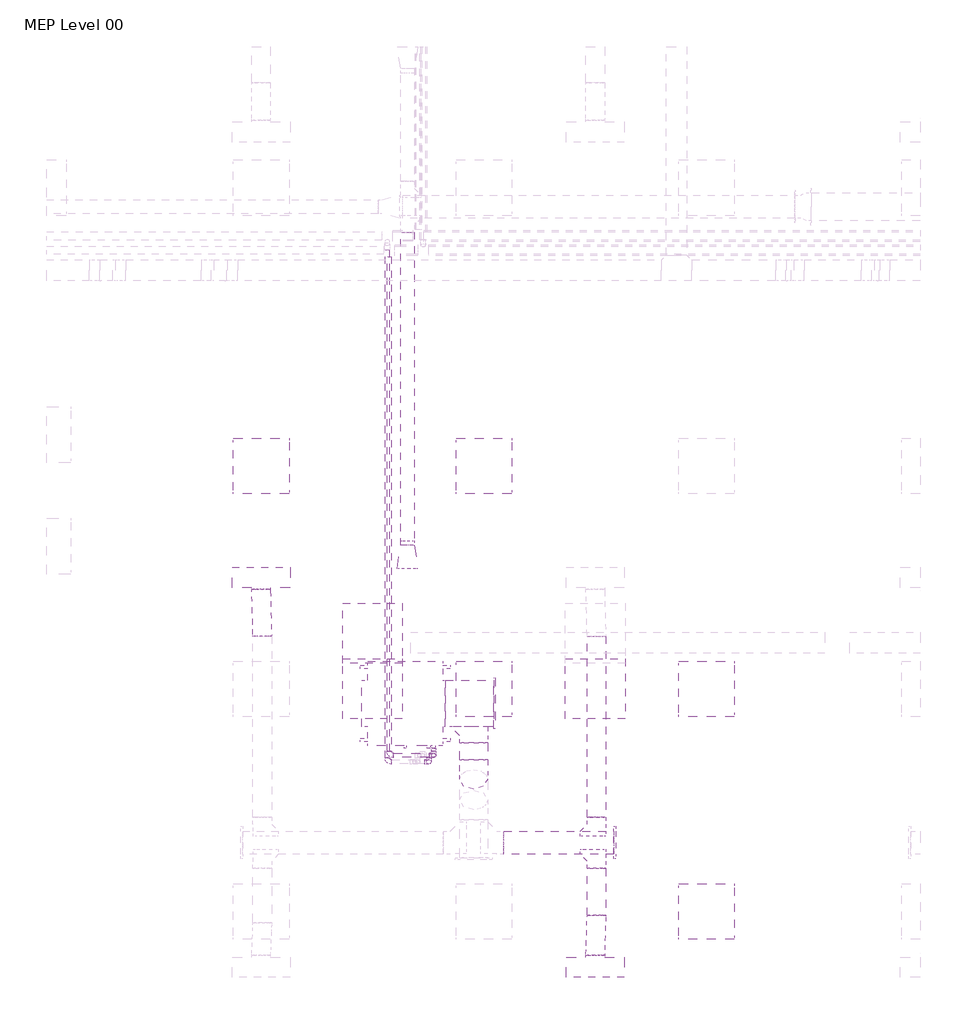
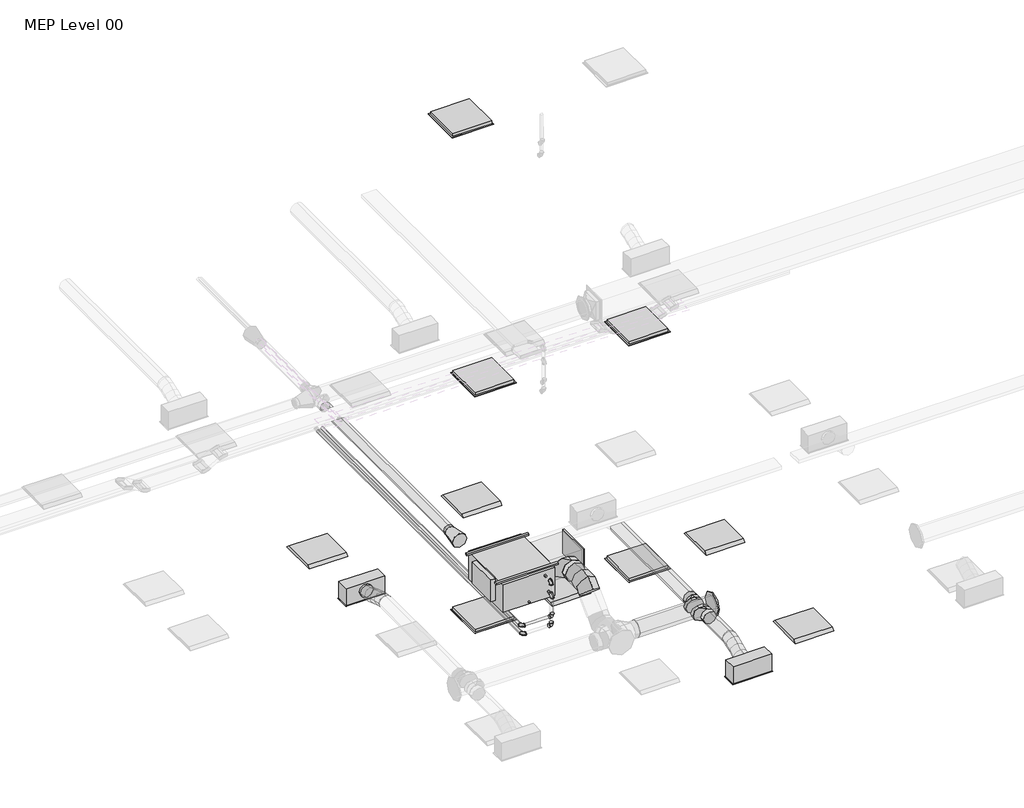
# One storey, part 2 of 33: 8 air terminals, 8 duct segments, 6 duct fittings, 6 pipe fittings, 5 light fixtures, 5 pipe segments, 1 proxy.
"""IFC4 building model written with IfcOpenShell, lengths in millimetres."""

from ifc_helpers import new_model, si_unit, point, frame, frame_2d, origin, place, context, project, spatial, polyline, circle_curve, ellipse_curve, trimmed, segment, composite_curve, outline, extrude, transform, mapped, element, save
from ifc_brep_helpers import plane_surface, cylinder_surface, advanced_brep
from components import air_terminal_0d1c431e, return_grille_rectangular_hosted_standard_7b12617c, supply_diffuser_with_plenum_linear_slot_hosted_8c379eed, fan_coil_unit_ceiling_ducted_chw_376_lps_48d57206, dw144_rectangular_blank_end_standard_8fde7d16, dw144_round_blank_end_standard_9aa061e7, dw144_round_segmented_bend_slip_joint_standard_8b80c5ae, dw144_round_shoe_branch_slip_joint_standard_559552f4, dw144_round_shoe_branch_slip_joint_standard_7ba9e4ed, light_fixture_600x600_230_1c7c1157, light_fixture_600x600_230_b730b5ca, elbow_threaded_gmi_standard_b4aa7741

model = new_model("IFC4")

# Units and contexts
model_context = context("Model", 3, world=origin())
ifc_project = project(units=[si_unit("LENGTHUNIT", "METRE", prefix="MILLI")], contexts=[model_context])

# Site, building, storey
site = spatial("IfcSite", under=ifc_project)
building = spatial("IfcBuilding", under=site)
storey = spatial("IfcBuildingStorey", under=building, Name="MEP Level 00", Elevation=0.0)

# Air terminals
placement = place(None, origin())
air_terminal_shape = air_terminal_0d1c431e(model_context)
element("IfcAirTerminal", 1, ObjectType="Supply_Bell_Mouth_Grille : Supply_Bell_Mouth_Grille", at=placement, inside=storey, context=model_context, shape_type="MappedRepresentation", body=[
    mapped(air_terminal_shape, transform((10739.0080407, 5510.2561435, 3100.0), x_axis=(0.0, -1.0, 0.0), y_axis=(1.0, 0.0, 0.0), z_axis=(0.0, 0.0, 1.0))),
])
return_grille_rectangular_hosted_standard_shape = return_grille_rectangular_hosted_standard_7b12617c(model_context)
element("IfcAirTerminal", 2, ObjectType="Return Grille - Rectangular - Hosted : Standard", at=placement, inside=storey, context=model_context, shape_type="MappedRepresentation", body=[
    mapped(return_grille_rectangular_hosted_standard_shape, transform((10362.2000027, 3963.2000004, 2800.0), x_axis=(1.0, 0.0, 0.0), y_axis=(0.0, -1.0, 0.0), z_axis=(0.0, 0.0, -1.0))),
])
element("IfcAirTerminal", 3, ObjectType="Return Grille - Rectangular - Hosted : Standard", at=placement, inside=storey, context=model_context, shape_type="MappedRepresentation", body=[
    mapped(return_grille_rectangular_hosted_standard_shape, transform((12762.2000027, 3963.2000004, 2800.0), x_axis=(1.0, 0.0, 0.0), y_axis=(0.0, -1.0, 0.0), z_axis=(0.0, 0.0, -1.0))),
])
element("IfcAirTerminal", 4, ObjectType="Return Grille - Rectangular - Hosted : Standard", at=placement, inside=storey, context=model_context, shape_type="MappedRepresentation", body=[
    mapped(return_grille_rectangular_hosted_standard_shape, transform((10362.2000027, 3963.2000004, 6700.0), x_axis=(1.0, 0.0, 0.0), y_axis=(0.0, -1.0, 0.0), z_axis=(0.0, 0.0, -1.0))),
])
element("IfcAirTerminal", 5, ObjectType="Return Grille - Rectangular - Hosted : Standard", at=placement, inside=storey, context=model_context, shape_type="MappedRepresentation", body=[
    mapped(return_grille_rectangular_hosted_standard_shape, transform((12762.2000027, 3963.2000004, 6700.0), x_axis=(1.0, 0.0, 0.0), y_axis=(0.0, -1.0, 0.0), z_axis=(0.0, 0.0, -1.0))),
])
element("IfcAirTerminal", 6, ObjectType="Return Grille - Rectangular - Hosted : Standard", at=placement, inside=storey, context=model_context, shape_type="MappedRepresentation", body=[
    mapped(return_grille_rectangular_hosted_standard_shape, transform((10362.2000027, 4563.2000004, 10600.0), x_axis=(1.0, 0.0, 0.0), y_axis=(0.0, -1.0, 0.0), z_axis=(0.0, 0.0, -1.0))),
])
supply_diffuser_with_plenum_linear_slot_hosted_shape = supply_diffuser_with_plenum_linear_slot_hosted_8c379eed(model_context)
element("IfcAirTerminal", 7, ObjectType="Supply Diffuser with Plenum - Linear Slot - Hosted : 600mmx193.8mm-200 In Inlet  4-Slot", at=placement, inside=storey, context=model_context, shape_type="MappedRepresentation", body=[
    mapped(supply_diffuser_with_plenum_linear_slot_hosted_shape, transform((12762.2000027, 963.2000004, 2800.0), x_axis=(1.0, 0.0, 0.0), y_axis=(0.0, -1.0, 0.0), z_axis=(0.0, 0.0, -1.0))),
])
element("IfcAirTerminal", 8, ObjectType="Supply Diffuser with Plenum - Linear Slot - Hosted : 600mmx193.8mm-200 In Inlet  4-Slot", at=placement, inside=storey, context=model_context, shape_type="MappedRepresentation", body=[
    mapped(supply_diffuser_with_plenum_linear_slot_hosted_shape, transform((9162.2000027, 5163.2000004, 2800.0), x_axis=(-1.0, 0.0, 0.0), y_axis=(0.0, 1.0, 0.0), z_axis=(0.0, 0.0, -1.0))),
])

# Proxy
fan_coil_unit_ceiling_ducted_chw_376_lps_shape = fan_coil_unit_ceiling_ducted_chw_376_lps_48d57206(model_context)
element("IfcBuildingElementProxy", 9, Name="Fan Coil Unit - Ceiling Ducted - CHW : 376 LPS", ObjectType="Fan Coil Unit - Ceiling Ducted - CHW : 376 LPS", at=placement, inside=storey, context=model_context, shape_type="MappedRepresentation", body=[
    mapped(fan_coil_unit_ceiling_ducted_chw_376_lps_shape, transform((11121.2561025, 4263.2000004, 3222.3911538), x_axis=(0.0, -1.0, 0.0), y_axis=(1.0, 0.0, 0.0), z_axis=(0.0, 0.0, 1.0))),
])

# Duct fittings
dw144_rectangular_blank_end_standard_shape = dw144_rectangular_blank_end_standard_8fde7d16(model_context)
element("IfcDuctFitting", 10, ObjectType="DW144 Rectangular Blank End : Standard", at=placement, inside=storey, context=model_context, shape_type="MappedRepresentation", body=[
    mapped(dw144_rectangular_blank_end_standard_shape, transform((11666.2561025, 3806.0000004, 3476.3911538), x_axis=(1.0, 0.0, 0.0), y_axis=(0.0, 1.0, 0.0), z_axis=(0.0, 0.0, 1.0))),
])
dw144_round_blank_end_standard_shape = dw144_round_blank_end_standard_9aa061e7(model_context)
element("IfcDuctFitting", 11, ObjectType="DW144 Round Blank End : Standard", at=placement, inside=storey, context=model_context, shape_type="MappedRepresentation", body=[
    mapped(dw144_round_blank_end_standard_shape, transform((12961.4561025, 2306.5018192, 3072.2088531), x_axis=(1.0, 0.0, 0.0), y_axis=(0.0, 1.0, 0.0), z_axis=(0.0, 0.0, 1.0))),
])
dw144_round_segmented_bend_slip_joint_standard_shape = dw144_round_segmented_bend_slip_joint_standard_8b80c5ae(model_context)
element("IfcDuctFitting", 12, ObjectType="DW144 Round Segmented Bend - Slip Joint : Standard", at=placement, inside=storey, context=model_context, shape_type="MappedRepresentation", body=[
    mapped(dw144_round_segmented_bend_slip_joint_standard_shape, transform((11451.4561025, 3076.0000004, 3469.575), x_axis=(0.0, -1.0, 0.0), y_axis=(0.0, 0.0, 1.0), z_axis=(-1.0, 0.0, 0.0))),
])
dw144_round_shoe_branch_slip_joint_standard_shape = dw144_round_shoe_branch_slip_joint_standard_559552f4(model_context)
element("IfcDuctFitting", 13, ObjectType="DW144 Round Shoe Branch - Slip Joint : Standard", at=placement, inside=storey, context=model_context, shape_type="MappedRepresentation", body=[
    mapped(dw144_round_shoe_branch_slip_joint_standard_shape, transform((12773.9000022, 2181.5018192, 3072.2088531), x_axis=(0.0, -1.0, 0.0), y_axis=(-1.0, 0.0, 0.0), z_axis=(0.0, 0.0, -1.0))),
])
element("IfcDuctFitting", 14, ObjectType="DW144 Round Shoe Branch - Slip Joint : Standard", at=placement, inside=storey, context=model_context, shape_type="MappedRepresentation", body=[
    mapped(dw144_round_shoe_branch_slip_joint_standard_shape, transform((12773.9000022, 2431.5018192, 3072.2088531), x_axis=(0.0, 1.0, 0.0), y_axis=(-1.0, 0.0, 0.0), z_axis=(0.0, 0.0, 1.0))),
])
dw144_round_shoe_branch_slip_joint_standard_2_shape = dw144_round_shoe_branch_slip_joint_standard_7ba9e4ed(model_context)
element("IfcDuctFitting", 15, ObjectType="DW144 Round Shoe Branch - Slip Joint : Standard", at=placement, inside=storey, context=model_context, shape_type="MappedRepresentation", body=[
    mapped(dw144_round_shoe_branch_slip_joint_standard_2_shape, transform((11451.4561025, 3556.0000004, 3469.575), x_axis=(0.0, -1.0, 0.0), y_axis=(-1.0, 0.0, 0.0), z_axis=(0.0, 0.0, -1.0))),
])

# Duct segments
element("IfcDuctSegment", 16, ObjectType="DW144 Flanged Med Radius Bend / Shoe Branch", at=placement, inside=storey, context=model_context, shape_type="SweptSolid", body=[
    extrude(outline(polyline([(11146.6561025, 3556.0000004), (11146.6561025, 4056.0000004), (11666.2561025, 4056.0000004), (11666.2561025, 3556.0000004), (11146.6561025, 3556.0000004)])), frame((0.0, 0.0, 3301.3911538), z_axis=(0.0, 0.0, 1.0), x_axis=(1.0, 0.0, 0.0)), (0.0, 0.0, 1.0), 350.0),
])
element("IfcDuctSegment", 17, ObjectType="DW144 Segmented Bend / Shoe Branch", at=placement, inside=storey, context=model_context, shape_type="SweptSolid", body=[
    extrude(outline(composite_curve([segment(trimmed(circle_curve(frame_2d((3469.575, 11451.4561025)), 150.0), [point((3469.575, 11301.4561025))], [point((3319.575, 11451.4561025))], False, "CARTESIAN"), True, "CONTINUOUS"), segment(trimmed(circle_curve(frame_2d((3469.575, 11451.4561025)), 150.0), [point((3319.575, 11451.4561025))], [point((3469.575, 11601.4561025))], False, "CARTESIAN"), True, "CONTINUOUS"), segment(trimmed(circle_curve(frame_2d((3469.575, 11451.4561025)), 150.0), [point((3469.575, 11601.4561025))], [point((3619.575, 11451.4561025))], False, "CARTESIAN"), True, "CONTINUOUS"), segment(trimmed(circle_curve(frame_2d((3469.575, 11451.4561025)), 150.0), [point((3619.575, 11451.4561025))], [point((3469.575, 11301.4561025))], False, "CARTESIAN"), True, "CONTINUOUS")], self_intersect=False)), frame((0.0, 3200.2640691, 0.0), z_axis=(0.0, 1.0, 0.0), x_axis=(0.0, 0.0, 1.0)), (0.0, 0.0, 1.0), 180.7359313),
])
element("IfcDuctSegment", 18, ObjectType="DW144 Segmented Bend / Shoe Branch", at=placement, inside=storey, context=model_context, shape_type="SweptSolid", body=[
    extrude(outline(composite_curve([segment(trimmed(circle_curve(frame_2d((2306.5018192, 3072.2088531)), 125.0), [point((2181.5018192, 3072.2088531))], [point((2306.5018192, 3197.2088531))], False, "CARTESIAN"), True, "CONTINUOUS"), segment(trimmed(circle_curve(frame_2d((2306.5018192, 3072.2088531)), 125.0), [point((2306.5018192, 3197.2088531))], [point((2431.5018192, 3072.2088531))], False, "CARTESIAN"), True, "CONTINUOUS"), segment(trimmed(circle_curve(frame_2d((2306.5018192, 3072.2088531)), 125.0), [point((2431.5018192, 3072.2088531))], [point((2306.5018192, 2947.2088531))], False, "CARTESIAN"), True, "CONTINUOUS"), segment(trimmed(circle_curve(frame_2d((2306.5018192, 3072.2088531)), 125.0), [point((2306.5018192, 2947.2088531))], [point((2181.5018192, 3072.2088531))], False, "CARTESIAN"), True, "CONTINUOUS")], self_intersect=False)), frame((11776.4561025, 0.0, 0.0), z_axis=(1.0, 0.0, 0.0), x_axis=(0.0, 1.0, 0.0)), (0.0, 0.0, 1.0), 1185.0),
])
element("IfcDuctSegment", 19, ObjectType="DW144 Segmented Bend / Shoe Branch", at=placement, inside=storey, context=model_context, shape_type="SweptSolid", body=[
    extrude(outline(composite_curve([segment(trimmed(circle_curve(frame_2d((3072.2088531, 12773.9000022)), 100.0), [point((3072.2088531, 12673.9000022))], [point((2972.2088531, 12773.9000022))], False, "CARTESIAN"), True, "CONTINUOUS"), segment(trimmed(circle_curve(frame_2d((3072.2088531, 12773.9000022)), 100.0), [point((2972.2088531, 12773.9000022))], [point((3072.2088531, 12873.9000022))], False, "CARTESIAN"), True, "CONTINUOUS"), segment(trimmed(circle_curve(frame_2d((3072.2088531, 12773.9000022)), 100.0), [point((3072.2088531, 12873.9000022))], [point((3172.2088531, 12773.9000022))], False, "CARTESIAN"), True, "CONTINUOUS"), segment(trimmed(circle_curve(frame_2d((3072.2088531, 12773.9000022)), 100.0), [point((3172.2088531, 12773.9000022))], [point((3072.2088531, 12673.9000022))], False, "CARTESIAN"), True, "CONTINUOUS")], self_intersect=False)), frame((0.0, 1521.5018192, 0.0), z_axis=(0.0, 1.0, 0.0), x_axis=(0.0, 0.0, 1.0)), (0.0, 0.0, 1.0), 510.0),
])
element("IfcDuctSegment", 20, ObjectType="DW144 Segmented Bend / Shoe Branch", at=placement, inside=storey, context=model_context, shape_type="SweptSolid", body=[
    extrude(outline(composite_curve([segment(trimmed(circle_curve(frame_2d((3072.2088531, 12773.9000022)), 100.0), [point((3072.2088531, 12873.9000022))], [point((3172.2088531, 12773.9000022))], False, "CARTESIAN"), True, "CONTINUOUS"), segment(trimmed(circle_curve(frame_2d((3072.2088531, 12773.9000022)), 100.0), [point((3172.2088531, 12773.9000022))], [point((3072.2088531, 12673.9000022))], False, "CARTESIAN"), True, "CONTINUOUS"), segment(trimmed(circle_curve(frame_2d((3072.2088531, 12773.9000022)), 100.0), [point((3072.2088531, 12673.9000022))], [point((2972.2088531, 12773.9000022))], False, "CARTESIAN"), True, "CONTINUOUS"), segment(trimmed(circle_curve(frame_2d((3072.2088531, 12773.9000022)), 100.0), [point((2972.2088531, 12773.9000022))], [point((3072.2088531, 12873.9000022))], False, "CARTESIAN"), True, "CONTINUOUS")], self_intersect=False)), frame((0.0, 2581.5018192, 0.0), z_axis=(0.0, 1.0, 0.0), x_axis=(0.0, 0.0, 1.0)), (0.0, 0.0, 1.0), 1950.0),
])
element("IfcDuctSegment", 21, ObjectType="DW144 Segmented Bend / Shoe Branch", at=placement, inside=storey, context=model_context, shape_type="SweptSolid", body=[
    extrude(outline(composite_curve([segment(trimmed(circle_curve(frame_2d((3100.0, 10739.0080407)), 75.0), [point((3100.0, 10664.0080407))], [point((3025.0, 10739.0080407))], False, "CARTESIAN"), True, "CONTINUOUS"), segment(trimmed(circle_curve(frame_2d((3100.0, 10739.0080407)), 75.0), [point((3025.0, 10739.0080407))], [point((3100.0, 10814.0080407))], False, "CARTESIAN"), True, "CONTINUOUS"), segment(trimmed(circle_curve(frame_2d((3100.0, 10739.0080407)), 75.0), [point((3100.0, 10814.0080407))], [point((3175.0, 10739.0080407))], False, "CARTESIAN"), True, "CONTINUOUS"), segment(trimmed(circle_curve(frame_2d((3100.0, 10739.0080407)), 75.0), [point((3175.0, 10739.0080407))], [point((3100.0, 10664.0080407))], False, "CARTESIAN"), True, "CONTINUOUS")], self_intersect=False)), frame((0.0, 5510.2561435, 0.0), z_axis=(0.0, 1.0, 0.0), x_axis=(0.0, 0.0, 1.0)), (0.0, 0.0, 1.0), 3374.1601689),
])
element("IfcDuctSegment", 22, ObjectType="Flex - Round", at=placement, inside=storey, context=model_context, shape_type="AdvancedBrep", body=[
    advanced_brep(
    [(9073.9000022, 4531.5018192, 3072.2088531), (9173.9000022, 4531.5018192, 2972.2088531), (9273.9000022, 4531.5018192, 3072.2088531), (9173.9000022, 4531.5018192, 3172.2088531), (9073.9000022, 4545.0398748, 3072.2088531), (9173.9000022, 4537.729612, 2972.2088531), (9273.9000022, 4546.6519942, 3072.2088531), (9173.9000022, 4553.962257, 3172.2088531), (9062.2000027, 5034.3000004, 2954.4), (9162.2000027, 5034.3000004, 3054.4), (9262.2000027, 5034.3000004, 2954.4), (9162.2000027, 5034.3000004, 2854.4), (9072.0969471, 4656.1396088, 3054.0536514), (9172.3243089, 4634.8198875, 2956.3429867), (9272.0468075, 4660.8412095, 3053.5487883), (9171.8194457, 4682.1609309, 3151.2594529), (9068.0984043, 4779.8283707, 3013.7917909), (9168.5373668, 4751.9631047, 2918.2117629), (9268.0016006, 4785.9734489, 3012.8170622), (9167.5626381, 4813.8387149, 3108.3970903), (9064.0531974, 4904.9606101, 2973.0600649), (9164.2805591, 4883.6408888, 2875.3494002), (9264.0030578, 4909.6622108, 2972.5552017), (9163.775696, 4930.9819322, 3070.2658664), (9062.2000027, 5019.1498254, 2954.4), (9162.2000027, 5011.8395627, 2854.4), (9262.2000027, 5020.7619448, 2954.4), (9162.2000027, 5028.0722076, 3054.4)],
    [
        (0, 1, circle_curve(frame((9173.9000022, 4531.5018192, 3072.2088531), z_axis=(0.0, -1.0, 0.0), x_axis=(-1.0, 0.0, 0.0)), 100.0)),
        (1, 2, circle_curve(frame((9173.9000022, 4531.5018192, 3072.2088531), z_axis=(0.0, -1.0, 0.0), x_axis=(-1.0, 0.0, 0.0)), 100.0)),
        (2, 3, circle_curve(frame((9173.9000022, 4531.5018192, 3072.2088531), z_axis=(0.0, -1.0, 0.0), x_axis=(-1.0, 0.0, 0.0)), 100.0)),
        (3, 0, circle_curve(frame((9173.9000022, 4531.5018192, 3072.2088531), z_axis=(0.0, -1.0, 0.0), x_axis=(-1.0, 0.0, 0.0)), 100.0)),
        (0, 4),
        (4, 5, ellipse_curve(frame((9173.9000022, 4545.8459345, 3072.2088531), z_axis=(0.008033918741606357, -0.9966902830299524, 0.08089459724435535), x_axis=(-0.09850014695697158, -0.08129255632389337, -0.9918110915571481)), 100.3320708, 100.0)),
        (5, 1),
        (5, 6, ellipse_curve(frame((9173.9000022, 4545.8459345, 3072.2088531), z_axis=(0.008033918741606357, -0.9966902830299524, 0.08089459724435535), x_axis=(-0.09850014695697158, -0.08129255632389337, -0.9918110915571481)), 100.3320708, 100.0)),
        (6, 2),
        (6, 7, ellipse_curve(frame((9173.9000022, 4545.8459345, 3072.2088531), z_axis=(0.008033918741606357, -0.9966902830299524, 0.08089459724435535), x_axis=(-0.09850014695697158, -0.08129255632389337, -0.9918110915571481)), 100.3320708, 100.0)),
        (7, 3),
        (7, 4, ellipse_curve(frame((9173.9000022, 4545.8459345, 3072.2088531), z_axis=(0.008033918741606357, -0.9966902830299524, 0.08089459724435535), x_axis=(-0.09850014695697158, -0.08129255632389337, -0.9918110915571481)), 100.3320708, 100.0)),
        (8, 9, circle_curve(frame((9162.2000027, 5034.3000004, 2954.4), z_axis=(0.0, 1.0, 0.0), x_axis=(-1.0, 0.0, 0.0)), 100.0)),
        (9, 10, circle_curve(frame((9162.2000027, 5034.3000004, 2954.4), z_axis=(0.0, 1.0, 0.0), x_axis=(-1.0, 0.0, 0.0)), 100.0)),
        (10, 11, circle_curve(frame((9162.2000027, 5034.3000004, 2954.4), z_axis=(0.0, 1.0, 0.0), x_axis=(-1.0, 0.0, 0.0)), 100.0)),
        (11, 8, circle_curve(frame((9162.2000027, 5034.3000004, 2954.4), z_axis=(0.0, 1.0, 0.0), x_axis=(-1.0, 0.0, 0.0)), 100.0)),
        (4, 12),
        (12, 13, ellipse_curve(frame((9172.0718773, 4658.4904092, 3053.8012198), z_axis=(0.023438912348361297, -0.9714680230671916, 0.23600952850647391), x_axis=(-0.09600750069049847, -0.23717057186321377, -0.9667123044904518)), 100.2947714, 100.0)),
        (13, 5),
        (13, 14, ellipse_curve(frame((9172.0718773, 4658.4904092, 3053.8012198), z_axis=(0.023438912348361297, -0.9714680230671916, 0.23600952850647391), x_axis=(-0.09600750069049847, -0.23717057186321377, -0.9667123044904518)), 100.2947714, 100.0)),
        (14, 6),
        (14, 15, ellipse_curve(frame((9172.0718773, 4658.4904092, 3053.8012198), z_axis=(0.023438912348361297, -0.9714680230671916, 0.23600952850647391), x_axis=(-0.09600750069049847, -0.23717057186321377, -0.9667123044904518)), 100.2947714, 100.0)),
        (15, 7),
        (15, 12, ellipse_curve(frame((9172.0718773, 4658.4904092, 3053.8012198), z_axis=(0.023438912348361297, -0.9714680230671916, 0.23600952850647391), x_axis=(-0.09600750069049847, -0.23717057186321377, -0.9667123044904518)), 100.2947714, 100.0)),
        (12, 16),
        (16, 17, circle_curve(frame((9168.0500024, 4782.9009098, 3013.3044266), z_axis=(0.030725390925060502, -0.9504426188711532, 0.30937805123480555), x_axis=(-0.9995159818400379, -0.03072539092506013, 0.004873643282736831)), 100.0)),
        (17, 13),
        (17, 18, circle_curve(frame((9168.0500024, 4782.9009098, 3013.3044266), z_axis=(0.030725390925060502, -0.9504426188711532, 0.30937805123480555), x_axis=(-0.9995159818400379, -0.03072539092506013, 0.004873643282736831)), 100.0)),
        (18, 14),
        (18, 19, circle_curve(frame((9168.0500024, 4782.9009098, 3013.3044266), z_axis=(0.030725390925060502, -0.9504426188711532, 0.30937805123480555), x_axis=(-0.9995159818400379, -0.03072539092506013, 0.004873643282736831)), 100.0)),
        (19, 15),
        (19, 16, circle_curve(frame((9168.0500024, 4782.9009098, 3013.3044266), z_axis=(0.030725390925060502, -0.9504426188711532, 0.30937805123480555), x_axis=(-0.9995159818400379, -0.03072539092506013, 0.004873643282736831)), 100.0)),
        (16, 20),
        (20, 21, ellipse_curve(frame((9164.0281276, 4907.3114105, 2972.8076333), z_axis=(0.023438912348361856, -0.9714680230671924, 0.23600952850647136), x_axis=(0.0960075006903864, 0.2371705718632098, 0.9667123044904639)), 100.2947714, 100.0)),
        (21, 17),
        (21, 22, ellipse_curve(frame((9164.0281276, 4907.3114105, 2972.8076333), z_axis=(0.023438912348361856, -0.9714680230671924, 0.23600952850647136), x_axis=(0.0960075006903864, 0.2371705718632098, 0.9667123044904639)), 100.2947714, 100.0)),
        (22, 18),
        (22, 23, ellipse_curve(frame((9164.0281276, 4907.3114105, 2972.8076333), z_axis=(0.023438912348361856, -0.9714680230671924, 0.23600952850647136), x_axis=(0.0960075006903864, 0.2371705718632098, 0.9667123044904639)), 100.2947714, 100.0)),
        (23, 19),
        (23, 20, ellipse_curve(frame((9164.0281276, 4907.3114105, 2972.8076333), z_axis=(0.023438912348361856, -0.9714680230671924, 0.23600952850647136), x_axis=(0.0960075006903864, 0.2371705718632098, 0.9667123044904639)), 100.2947714, 100.0)),
        (20, 24),
        (24, 25, ellipse_curve(frame((9162.2000027, 5019.9558851, 2954.4), z_axis=(0.008033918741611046, -0.9966902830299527, 0.08089459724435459), x_axis=(0.09850014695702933, 0.08129255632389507, 0.9918110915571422)), 100.3320708, 100.0)),
        (25, 21),
        (25, 26, ellipse_curve(frame((9162.2000027, 5019.9558851, 2954.4), z_axis=(0.008033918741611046, -0.9966902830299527, 0.08089459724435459), x_axis=(0.09850014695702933, 0.08129255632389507, 0.9918110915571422)), 100.3320708, 100.0)),
        (26, 22),
        (26, 27, ellipse_curve(frame((9162.2000027, 5019.9558851, 2954.4), z_axis=(0.008033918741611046, -0.9966902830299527, 0.08089459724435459), x_axis=(0.09850014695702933, 0.08129255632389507, 0.9918110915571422)), 100.3320708, 100.0)),
        (27, 23),
        (27, 24, ellipse_curve(frame((9162.2000027, 5019.9558851, 2954.4), z_axis=(0.008033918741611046, -0.9966902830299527, 0.08089459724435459), x_axis=(0.09850014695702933, 0.08129255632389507, 0.9918110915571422)), 100.3320708, 100.0)),
        (24, 8),
        (11, 25),
        (10, 26),
        (9, 27),
    ],
    [
        plane_surface(frame((9073.9000022, 4531.5018192, 3072.2088531), z_axis=(0.0, -1.0, 0.0), x_axis=(0.0, 0.0, 1.0))),
        cylinder_surface(frame((9173.9000022, 4531.5018192, 3072.2088531), z_axis=(0.0, -1.0, 0.0), x_axis=(-1.0, 0.0, 0.0)), 100.0),
        plane_surface(frame((9062.2000027, 5034.3000004, 2954.4), z_axis=(0.0, 1.0, 0.0), x_axis=(0.0, 0.0, 1.0))),
        cylinder_surface(frame((9173.9000022, 4545.8459345, 3072.2088531), z_axis=(0.01601465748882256, -0.9867830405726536, 0.1612537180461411), x_axis=(-0.9998709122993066, -0.01601465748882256, 0.001299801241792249)), 100.0),
        cylinder_surface(frame((9172.0718773, 4658.4904092, 3053.8012198), z_axis=(0.030725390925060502, -0.9504426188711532, 0.30937805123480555), x_axis=(-0.9995159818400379, -0.03072539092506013, 0.004873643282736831)), 100.0),
        cylinder_surface(frame((9168.0500024, 4782.9009098, 3013.3044266), z_axis=(0.03072539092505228, -0.9504426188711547, 0.30937805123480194), x_axis=(-0.9995159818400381, -0.030725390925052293, 0.004873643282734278)), 100.0),
        cylinder_surface(frame((9164.0281276, 4907.3114105, 2972.8076333), z_axis=(0.016014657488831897, -0.9867830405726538, 0.16125371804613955), x_axis=(-0.9998709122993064, -0.01601465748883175, 0.0012998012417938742)), 100.0),
        cylinder_surface(frame((9162.2000027, 5019.9558851, 2954.4), z_axis=(0.0, -1.0, 0.0), x_axis=(-1.0, 0.0, 0.0)), 100.0),
    ],
    [
        (0, [[1, 2, 3, 4]]),
        (1, [[-1, 5, 6, 7]]),
        (1, [[-2, -7, 8, 9]]),
        (1, [[-3, -9, 10, 11]]),
        (1, [[-4, -11, 12, -5]]),
        (2, [[13, 14, 15, 16]]),
        (3, [[-6, 17, 18, 19]]),
        (3, [[-8, -19, 20, 21]]),
        (3, [[-10, -21, 22, 23]]),
        (3, [[-12, -23, 24, -17]]),
        (4, [[-18, 25, 26, 27]]),
        (4, [[-20, -27, 28, 29]]),
        (4, [[-22, -29, 30, 31]]),
        (4, [[-24, -31, 32, -25]]),
        (5, [[-26, 33, 34, 35]]),
        (5, [[-28, -35, 36, 37]]),
        (5, [[-30, -37, 38, 39]]),
        (5, [[-32, -39, 40, -33]]),
        (6, [[-34, 41, 42, 43]]),
        (6, [[-36, -43, 44, 45]]),
        (6, [[-38, -45, 46, 47]]),
        (6, [[-40, -47, 48, -41]]),
        (7, [[-42, 49, -16, 50]]),
        (7, [[-44, -50, -15, 51]]),
        (7, [[-46, -51, -14, 52]]),
        (7, [[-48, -52, -13, -49]]),
    ],
),
])
element("IfcDuctSegment", 23, ObjectType="Flex - Round", at=placement, inside=storey, context=model_context, shape_type="AdvancedBrep", body=[
    advanced_brep(
    [(12873.9000022, 1521.5018192, 3072.2088531), (12773.9000022, 1521.5018192, 2972.2088531), (12673.9000022, 1521.5018192, 3072.2088531), (12773.9000022, 1521.5018192, 3172.2088531), (12873.9000022, 1503.8483968, 3072.2088531), (12773.9000022, 1514.716186, 2972.2088531), (12673.9000022, 1505.8120174, 3072.2088531), (12773.9000022, 1494.9442282, 3172.2088531), (12862.2000027, 1092.1000004, 2954.4), (12762.2000027, 1092.1000004, 3054.4), (12662.2000027, 1092.1000004, 2954.4), (12762.2000027, 1092.1000004, 2854.4), (12872.0365094, 1409.8841765, 3053.4450953), (12772.4280018, 1440.492465, 2957.3870846), (12672.1072452, 1415.4145623, 3054.1573443), (12771.7157528, 1384.8062738, 3150.2153551), (12867.9849454, 1303.2543522, 3012.6493581), (12768.7050709, 1342.5116705, 2919.9003985), (12668.1150595, 1310.3474674, 3013.9594951), (12767.3949339, 1271.0901491, 3106.7084546), (12863.9927597, 1198.1872573, 2972.4515088), (12764.3842521, 1228.7955458, 2876.3934981), (12664.0634955, 1203.7176431, 2973.1637578), (12763.6720031, 1173.1093547, 3069.2217685), (12862.2000027, 1107.7898022, 2954.4), (12762.2000027, 1118.6575914, 2854.4), (12662.2000027, 1109.7534229, 2954.4), (12762.2000027, 1098.8856336, 3054.4)],
    [
        (0, 1, circle_curve(frame((12773.9000022, 1521.5018192, 3072.2088531), z_axis=(0.0, 1.0, 0.0), x_axis=(1.0, 0.0, 0.0)), 100.0)),
        (1, 2, circle_curve(frame((12773.9000022, 1521.5018192, 3072.2088531), z_axis=(0.0, 1.0, 0.0), x_axis=(1.0, 0.0, 0.0)), 100.0)),
        (2, 3, circle_curve(frame((12773.9000022, 1521.5018192, 3072.2088531), z_axis=(0.0, 1.0, 0.0), x_axis=(1.0, 0.0, 0.0)), 100.0)),
        (3, 0, circle_curve(frame((12773.9000022, 1521.5018192, 3072.2088531), z_axis=(0.0, 1.0, 0.0), x_axis=(1.0, 0.0, 0.0)), 100.0)),
        (0, 4),
        (4, 5, ellipse_curve(frame((12773.9000022, 1504.8302071, 3072.2088531), z_axis=(0.00977000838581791, 0.9951014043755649, 0.09837551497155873), x_axis=(-0.09834312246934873, 0.09885947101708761, -0.990229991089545)), 100.492271, 100.0)),
        (5, 1),
        (5, 6, ellipse_curve(frame((12773.9000022, 1504.8302071, 3072.2088531), z_axis=(0.00977000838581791, 0.9951014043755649, 0.09837551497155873), x_axis=(-0.09834312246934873, 0.09885947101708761, -0.990229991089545)), 100.492271, 100.0)),
        (6, 2),
        (6, 7, ellipse_curve(frame((12773.9000022, 1504.8302071, 3072.2088531), z_axis=(0.00977000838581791, 0.9951014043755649, 0.09837551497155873), x_axis=(-0.09834312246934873, 0.09885947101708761, -0.990229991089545)), 100.492271, 100.0)),
        (7, 3),
        (7, 4, ellipse_curve(frame((12773.9000022, 1504.8302071, 3072.2088531), z_axis=(0.00977000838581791, 0.9951014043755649, 0.09837551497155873), x_axis=(-0.09834312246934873, 0.09885947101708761, -0.990229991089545)), 100.492271, 100.0)),
        (8, 9, circle_curve(frame((12762.2000027, 1092.1000004, 2954.4), z_axis=(0.0, -1.0, 0.0), x_axis=(1.0, 0.0, 0.0)), 100.0)),
        (9, 10, circle_curve(frame((12762.2000027, 1092.1000004, 2954.4), z_axis=(0.0, -1.0, 0.0), x_axis=(1.0, 0.0, 0.0)), 100.0)),
        (10, 11, circle_curve(frame((12762.2000027, 1092.1000004, 2954.4), z_axis=(0.0, -1.0, 0.0), x_axis=(1.0, 0.0, 0.0)), 100.0)),
        (11, 8, circle_curve(frame((12762.2000027, 1092.1000004, 2954.4), z_axis=(0.0, -1.0, 0.0), x_axis=(1.0, 0.0, 0.0)), 100.0)),
        (4, 12),
        (12, 13, ellipse_curve(frame((12772.0718773, 1412.6493694, 3053.8012198), z_axis=(0.027553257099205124, 0.9603485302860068, 0.27743741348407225), x_axis=(-0.09490859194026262, 0.27880226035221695, -0.9556472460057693)), 100.358114, 100.0)),
        (13, 5),
        (13, 14, ellipse_curve(frame((12772.0718773, 1412.6493694, 3053.8012198), z_axis=(0.027553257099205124, 0.9603485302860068, 0.27743741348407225), x_axis=(-0.09490859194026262, 0.27880226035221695, -0.9556472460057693)), 100.358114, 100.0)),
        (14, 6),
        (14, 15, ellipse_curve(frame((12772.0718773, 1412.6493694, 3053.8012198), z_axis=(0.027553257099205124, 0.9603485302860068, 0.27743741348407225), x_axis=(-0.09490859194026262, 0.27880226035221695, -0.9556472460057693)), 100.358114, 100.0)),
        (15, 7),
        (15, 12, ellipse_curve(frame((12772.0718773, 1412.6493694, 3053.8012198), z_axis=(0.027553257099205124, 0.9603485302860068, 0.27743741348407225), x_axis=(-0.09490859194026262, 0.27880226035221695, -0.9556472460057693)), 100.358114, 100.0)),
        (12, 16),
        (16, 17, circle_curve(frame((12768.0500024, 1306.8009098, 3013.3044266), z_axis=(0.03546557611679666, 0.9333897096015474, 0.35710760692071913), x_axis=(0.9993494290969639, -0.035465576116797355, -0.006550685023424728)), 100.0)),
        (17, 13),
        (17, 18, circle_curve(frame((12768.0500024, 1306.8009098, 3013.3044266), z_axis=(0.03546557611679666, 0.9333897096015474, 0.35710760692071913), x_axis=(0.9993494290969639, -0.035465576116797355, -0.006550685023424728)), 100.0)),
        (18, 14),
        (18, 19, circle_curve(frame((12768.0500024, 1306.8009098, 3013.3044266), z_axis=(0.03546557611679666, 0.9333897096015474, 0.35710760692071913), x_axis=(0.9993494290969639, -0.035465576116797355, -0.006550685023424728)), 100.0)),
        (19, 15),
        (19, 16, circle_curve(frame((12768.0500024, 1306.8009098, 3013.3044266), z_axis=(0.03546557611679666, 0.9333897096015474, 0.35710760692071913), x_axis=(0.9993494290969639, -0.035465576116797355, -0.006550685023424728)), 100.0)),
        (16, 20),
        (20, 21, ellipse_curve(frame((12764.0281276, 1200.9524502, 2972.8076333), z_axis=(0.027553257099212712, 0.9603485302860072, 0.27743741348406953), x_axis=(0.09490859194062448, -0.278802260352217, 0.9556472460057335)), 100.358114, 100.0)),
        (21, 17),
        (21, 22, ellipse_curve(frame((12764.0281276, 1200.9524502, 2972.8076333), z_axis=(0.027553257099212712, 0.9603485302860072, 0.27743741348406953), x_axis=(0.09490859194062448, -0.278802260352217, 0.9556472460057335)), 100.358114, 100.0)),
        (22, 18),
        (22, 23, ellipse_curve(frame((12764.0281276, 1200.9524502, 2972.8076333), z_axis=(0.027553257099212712, 0.9603485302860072, 0.27743741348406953), x_axis=(0.09490859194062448, -0.278802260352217, 0.9556472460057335)), 100.358114, 100.0)),
        (23, 19),
        (23, 20, ellipse_curve(frame((12764.0281276, 1200.9524502, 2972.8076333), z_axis=(0.027553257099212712, 0.9603485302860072, 0.27743741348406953), x_axis=(0.09490859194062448, -0.278802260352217, 0.9556472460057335)), 100.358114, 100.0)),
        (20, 24),
        (24, 25, ellipse_curve(frame((12762.2000027, 1108.7716125, 2954.4), z_axis=(0.00977000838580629, 0.9951014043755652, 0.0983755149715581), x_axis=(0.0983431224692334, -0.09885947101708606, 0.9902299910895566)), 100.492271, 100.0)),
        (25, 21),
        (25, 26, ellipse_curve(frame((12762.2000027, 1108.7716125, 2954.4), z_axis=(0.00977000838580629, 0.9951014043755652, 0.0983755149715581), x_axis=(0.0983431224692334, -0.09885947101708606, 0.9902299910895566)), 100.492271, 100.0)),
        (26, 22),
        (26, 27, ellipse_curve(frame((12762.2000027, 1108.7716125, 2954.4), z_axis=(0.00977000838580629, 0.9951014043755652, 0.0983755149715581), x_axis=(0.0983431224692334, -0.09885947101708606, 0.9902299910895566)), 100.492271, 100.0)),
        (27, 23),
        (27, 24, ellipse_curve(frame((12762.2000027, 1108.7716125, 2954.4), z_axis=(0.00977000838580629, 0.9951014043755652, 0.0983755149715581), x_axis=(0.0983431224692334, -0.09885947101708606, 0.9902299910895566)), 100.492271, 100.0)),
        (24, 8),
        (11, 25),
        (10, 26),
        (9, 27),
    ],
    [
        plane_surface(frame((12673.9000022, 1521.5018192, 3072.2088531), z_axis=(0.0, 1.0, 0.0), x_axis=(0.0, 0.0, -1.0))),
        cylinder_surface(frame((12773.9000022, 1521.5018192, 3072.2088531), z_axis=(0.0, 1.0, 0.0), x_axis=(1.0, 0.0, 0.0)), 100.0),
        plane_surface(frame((12662.2000027, 1092.1000004, 2954.4), z_axis=(0.0, -1.0, 0.0), x_axis=(0.0, 0.0, -1.0))),
        cylinder_surface(frame((12773.9000022, 1504.8302071, 3072.2088531), z_axis=(0.0194442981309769, 0.9804536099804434, 0.19578722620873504), x_axis=(0.9998090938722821, -0.0194442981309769, -0.001922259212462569)), 100.0),
        cylinder_surface(frame((12772.0718773, 1412.6493694, 3053.8012198), z_axis=(0.03546557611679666, 0.9333897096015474, 0.35710760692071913), x_axis=(0.9993494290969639, -0.035465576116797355, -0.006550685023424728)), 100.0),
        cylinder_surface(frame((12768.0500024, 1306.8009098, 3013.3044266), z_axis=(0.03546557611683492, 0.9333897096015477, 0.35710760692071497), x_axis=(0.9993494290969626, -0.03546557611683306, -0.006550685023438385)), 100.0),
        cylinder_surface(frame((12764.0281276, 1200.9524502, 2972.8076333), z_axis=(0.01944429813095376, 0.9804536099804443, 0.19578722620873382), x_axis=(0.9998090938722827, -0.019444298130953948, -0.0019222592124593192)), 100.0),
        cylinder_surface(frame((12762.2000027, 1108.7716125, 2954.4), z_axis=(0.0, 1.0, 0.0), x_axis=(1.0, 0.0, 0.0)), 100.0),
    ],
    [
        (0, [[1, 2, 3, 4]]),
        (1, [[-1, 5, 6, 7]]),
        (1, [[-2, -7, 8, 9]]),
        (1, [[-3, -9, 10, 11]]),
        (1, [[-4, -11, 12, -5]]),
        (2, [[13, 14, 15, 16]]),
        (3, [[-6, 17, 18, 19]]),
        (3, [[-8, -19, 20, 21]]),
        (3, [[-10, -21, 22, 23]]),
        (3, [[-12, -23, 24, -17]]),
        (4, [[-18, 25, 26, 27]]),
        (4, [[-20, -27, 28, 29]]),
        (4, [[-22, -29, 30, 31]]),
        (4, [[-24, -31, 32, -25]]),
        (5, [[-26, 33, 34, 35]]),
        (5, [[-28, -35, 36, 37]]),
        (5, [[-30, -37, 38, 39]]),
        (5, [[-32, -39, 40, -33]]),
        (6, [[-34, 41, 42, 43]]),
        (6, [[-36, -43, 44, 45]]),
        (6, [[-38, -45, 46, 47]]),
        (6, [[-40, -47, 48, -41]]),
        (7, [[-42, 49, -16, 50]]),
        (7, [[-44, -50, -15, 51]]),
        (7, [[-46, -51, -14, 52]]),
        (7, [[-48, -52, -13, -49]]),
    ],
),
])

# Light fixtures
light_fixture_600x600_230_shape = light_fixture_600x600_230_1c7c1157(model_context)
element("IfcLightFixture", 24, ObjectType="ELEKTRA Recessed Lighting Fixture : 600x600 - 230", at=placement, inside=storey, context=model_context, shape_type="MappedRepresentation", body=[
    mapped(light_fixture_600x600_230_shape, transform((13662.2000027, 1263.2000004, 2800.0), x_axis=(1.0, 0.0, 0.0), y_axis=(0.0, -1.0, 0.0), z_axis=(0.0, 0.0, -1.0))),
])
element("IfcLightFixture", 25, ObjectType="ELEKTRA Recessed Lighting Fixture : 600x600 - 230", at=placement, inside=storey, context=model_context, shape_type="MappedRepresentation", body=[
    mapped(light_fixture_600x600_230_shape, transform((11262.2000027, 3663.2000004, 2800.0), x_axis=(1.0, 0.0, 0.0), y_axis=(0.0, -1.0, 0.0), z_axis=(0.0, 0.0, -1.0))),
])
element("IfcLightFixture", 26, ObjectType="ELEKTRA Recessed Lighting Fixture : 600x600 - 230", at=placement, inside=storey, context=model_context, shape_type="MappedRepresentation", body=[
    mapped(light_fixture_600x600_230_shape, transform((8862.2000027, 6063.2000004, 2800.0), x_axis=(1.0, 0.0, 0.0), y_axis=(0.0, -1.0, 0.0), z_axis=(0.0, 0.0, -1.0))),
])
element("IfcLightFixture", 27, ObjectType="ELEKTRA Recessed Lighting Fixture : 600x600 - 230", at=placement, inside=storey, context=model_context, shape_type="MappedRepresentation", body=[
    mapped(light_fixture_600x600_230_shape, transform((11262.2000027, 6063.2000004, 2800.0), x_axis=(1.0, 0.0, 0.0), y_axis=(0.0, -1.0, 0.0), z_axis=(0.0, 0.0, -1.0))),
])
light_fixture_600x600_230_2_shape = light_fixture_600x600_230_b730b5ca(model_context)
element("IfcLightFixture", 28, ObjectType="ELEKTRA EM Recessed Lighting Fixture : 600x600 - 230", at=placement, inside=storey, context=model_context, shape_type="MappedRepresentation", body=[
    mapped(light_fixture_600x600_230_2_shape, transform((13662.2000027, 3663.2000004, 2800.0), x_axis=(1.0, 0.0, 0.0), y_axis=(0.0, -1.0, 0.0), z_axis=(0.0, 0.0, -1.0))),
])

# Pipe fittings
elbow_threaded_gmi_standard_shape = elbow_threaded_gmi_standard_b4aa7741(model_context)
element("IfcPipeFitting", 29, ObjectType="Elbow - Threaded - GMI : Standard", at=placement, inside=storey, context=model_context, shape_type="MappedRepresentation", body=[
    mapped(elbow_threaded_gmi_standard_shape, transform((10968.8561025, 3177.232951, 2893.9343179), x_axis=(0.0, 0.0, -1.0), y_axis=(-1.0, 0.0, 0.0), z_axis=(0.0, 1.0, 0.0))),
])
element("IfcPipeFitting", 30, ObjectType="Elbow - Threaded - GMI : Standard", at=placement, inside=storey, context=model_context, shape_type="MappedRepresentation", body=[
    mapped(elbow_threaded_gmi_standard_shape, transform((10521.3774685, 3177.232951, 2893.9343179), x_axis=(0.0, -1.0, 0.0), y_axis=(1.0, 0.0, 0.0), z_axis=(0.0, 0.0, 1.0))),
])
element("IfcPipeFitting", 31, ObjectType="Elbow - Threaded - GMI : Standard", at=placement, inside=storey, context=model_context, shape_type="MappedRepresentation", body=[
    mapped(elbow_threaded_gmi_standard_shape, transform((11019.6561025, 3246.7427522, 2980.0), x_axis=(0.0, 0.0, -1.0), y_axis=(-1.0, 0.0, 0.0), z_axis=(0.0, 1.0, 0.0))),
])
element("IfcPipeFitting", 32, ObjectType="Elbow - Threaded - GMI : Standard", at=placement, inside=storey, context=model_context, shape_type="MappedRepresentation", body=[
    mapped(elbow_threaded_gmi_standard_shape, transform((10542.0529581, 3246.7427522, 2980.0), x_axis=(0.0, -1.0, 0.0), y_axis=(1.0, 0.0, 0.0), z_axis=(0.0, 0.0, 1.0))),
])
element("IfcPipeFitting", 33, ObjectType="Elbow - Threaded - GMI : Standard", at=placement, inside=storey, context=model_context, shape_type="MappedRepresentation", body=[
    mapped(elbow_threaded_gmi_standard_shape, transform((11019.6561025, 3246.7427522, 3323.9911538), x_axis=(0.0, 0.0, 1.0), y_axis=(0.0, 1.0, 0.0), z_axis=(-1.0, 0.0, 0.0))),
])
element("IfcPipeFitting", 34, ObjectType="Elbow - Threaded - GMI : Standard", at=placement, inside=storey, context=model_context, shape_type="MappedRepresentation", body=[
    mapped(elbow_threaded_gmi_standard_shape, transform((10968.8561025, 3177.232951, 3603.3911538), x_axis=(0.0, 0.0, 1.0), y_axis=(0.0, 1.0, 0.0), z_axis=(-1.0, 0.0, 0.0))),
])

# Pipe segments
element("IfcPipeSegment", 35, ObjectType="Carbon Steel - Threaded", at=placement, inside=storey, context=model_context, shape_type="SweptSolid", body=[
    extrude(outline(composite_curve([segment(trimmed(circle_curve(frame_2d((2980.0, 10542.0529581)), 21.45), [point((2980.0, 10563.5029581))], [point((3001.45, 10542.0529581))], False, "CARTESIAN"), True, "CONTINUOUS"), segment(trimmed(circle_curve(frame_2d((2980.0, 10542.0529581)), 21.45), [point((3001.45, 10542.0529581))], [point((2980.0, 10520.6029581))], False, "CARTESIAN"), True, "CONTINUOUS"), segment(trimmed(circle_curve(frame_2d((2980.0, 10542.0529581)), 21.45), [point((2980.0, 10520.6029581))], [point((2958.55, 10542.0529581))], False, "CARTESIAN"), True, "CONTINUOUS"), segment(trimmed(circle_curve(frame_2d((2980.0, 10542.0529581)), 21.45), [point((2958.55, 10542.0529581))], [point((2980.0, 10563.5029581))], False, "CARTESIAN"), True, "CONTINUOUS")], self_intersect=False)), frame((0.0, 3291.7427522, 0.0), z_axis=(0.0, 1.0, 0.0), x_axis=(0.0, 0.0, 1.0)), (0.0, 0.0, 1.0), 5328.6137662),
])
element("IfcPipeSegment", 36, ObjectType="Carbon Steel - Threaded", at=placement, inside=storey, context=model_context, shape_type="SweptSolid", body=[
    extrude(outline(composite_curve([segment(trimmed(circle_curve(frame_2d((2893.9343179, 10521.3774685)), 21.45), [point((2893.9343179, 10499.9274685))], [point((2872.4843179, 10521.3774685))], False, "CARTESIAN"), True, "CONTINUOUS"), segment(trimmed(circle_curve(frame_2d((2893.9343179, 10521.3774685)), 21.45), [point((2872.4843179, 10521.3774685))], [point((2893.9343179, 10542.8274685))], False, "CARTESIAN"), True, "CONTINUOUS"), segment(trimmed(circle_curve(frame_2d((2893.9343179, 10521.3774685)), 21.45), [point((2893.9343179, 10542.8274685))], [point((2915.3843179, 10521.3774685))], False, "CARTESIAN"), True, "CONTINUOUS"), segment(trimmed(circle_curve(frame_2d((2893.9343179, 10521.3774685)), 21.45), [point((2915.3843179, 10521.3774685))], [point((2893.9343179, 10499.9274685))], False, "CARTESIAN"), True, "CONTINUOUS")], self_intersect=False)), frame((0.0, 3222.232951, 0.0), z_axis=(0.0, 1.0, 0.0), x_axis=(0.0, 0.0, 1.0)), (0.0, 0.0, 1.0), 5474.9243983),
])
element("IfcPipeSegment", 37, ObjectType="Carbon Steel - Threaded", at=placement, inside=storey, context=model_context, shape_type="SweptSolid", body=[
    extrude(outline(composite_curve([segment(trimmed(circle_curve(frame_2d((3323.9911538, 11019.6561025)), 21.45), [point((3323.9911538, 11041.1061025))], [point((3345.4411538, 11019.6561025))], False, "CARTESIAN"), True, "CONTINUOUS"), segment(trimmed(circle_curve(frame_2d((3323.9911538, 11019.6561025)), 21.45), [point((3345.4411538, 11019.6561025))], [point((3323.9911538, 10998.2061025))], False, "CARTESIAN"), True, "CONTINUOUS"), segment(trimmed(circle_curve(frame_2d((3323.9911538, 11019.6561025)), 21.45), [point((3323.9911538, 10998.2061025))], [point((3302.5411538, 11019.6561025))], False, "CARTESIAN"), True, "CONTINUOUS"), segment(trimmed(circle_curve(frame_2d((3323.9911538, 11019.6561025)), 21.45), [point((3302.5411538, 11019.6561025))], [point((3323.9911538, 11041.1061025))], False, "CARTESIAN"), True, "CONTINUOUS")], self_intersect=False)), frame((0.0, 3291.7427522, 0.0), z_axis=(0.0, 1.0, 0.0), x_axis=(0.0, 0.0, 1.0)), (0.0, 0.0, 1.0), 31.6572482),
])
element("IfcPipeSegment", 38, ObjectType="Carbon Steel - Threaded", at=placement, inside=storey, context=model_context, shape_type="SweptSolid", body=[
    extrude(outline(composite_curve([segment(trimmed(circle_curve(frame_2d((11019.6561025, 3246.7427522)), 21.45), [point((11041.1061025, 3246.7427522))], [point((11019.6561025, 3225.2927522))], False, "CARTESIAN"), True, "CONTINUOUS"), segment(trimmed(circle_curve(frame_2d((11019.6561025, 3246.7427522)), 21.45), [point((11019.6561025, 3225.2927522))], [point((10998.2061025, 3246.7427522))], False, "CARTESIAN"), True, "CONTINUOUS"), segment(trimmed(circle_curve(frame_2d((11019.6561025, 3246.7427522)), 21.45), [point((10998.2061025, 3246.7427522))], [point((11019.6561025, 3268.1927522))], False, "CARTESIAN"), True, "CONTINUOUS"), segment(trimmed(circle_curve(frame_2d((11019.6561025, 3246.7427522)), 21.45), [point((11019.6561025, 3268.1927522))], [point((11041.1061025, 3246.7427522))], False, "CARTESIAN"), True, "CONTINUOUS")], self_intersect=False)), frame((0.0, 0.0, 3025.0), z_axis=(0.0, 0.0, 1.0), x_axis=(1.0, 0.0, 0.0)), (0.0, 0.0, 1.0), 253.9911538),
])
element("IfcPipeSegment", 39, ObjectType="Carbon Steel - Threaded", at=placement, inside=storey, context=model_context, shape_type="SweptSolid", body=[
    extrude(outline(composite_curve([segment(trimmed(circle_curve(frame_2d((3246.7427522, 2980.0)), 21.45), [point((3268.1927522, 2980.0))], [point((3246.7427522, 2958.55))], False, "CARTESIAN"), True, "CONTINUOUS"), segment(trimmed(circle_curve(frame_2d((3246.7427522, 2980.0)), 21.45), [point((3246.7427522, 2958.55))], [point((3225.2927522, 2980.0))], False, "CARTESIAN"), True, "CONTINUOUS"), segment(trimmed(circle_curve(frame_2d((3246.7427522, 2980.0)), 21.45), [point((3225.2927522, 2980.0))], [point((3246.7427522, 3001.45))], False, "CARTESIAN"), True, "CONTINUOUS"), segment(trimmed(circle_curve(frame_2d((3246.7427522, 2980.0)), 21.45), [point((3246.7427522, 3001.45))], [point((3268.1927522, 2980.0))], False, "CARTESIAN"), True, "CONTINUOUS")], self_intersect=False)), frame((10587.0529581, 0.0, 0.0), z_axis=(1.0, 0.0, 0.0), x_axis=(0.0, 1.0, 0.0)), (0.0, 0.0, 1.0), 387.6031444),
])

save(model, "model.ifc")
